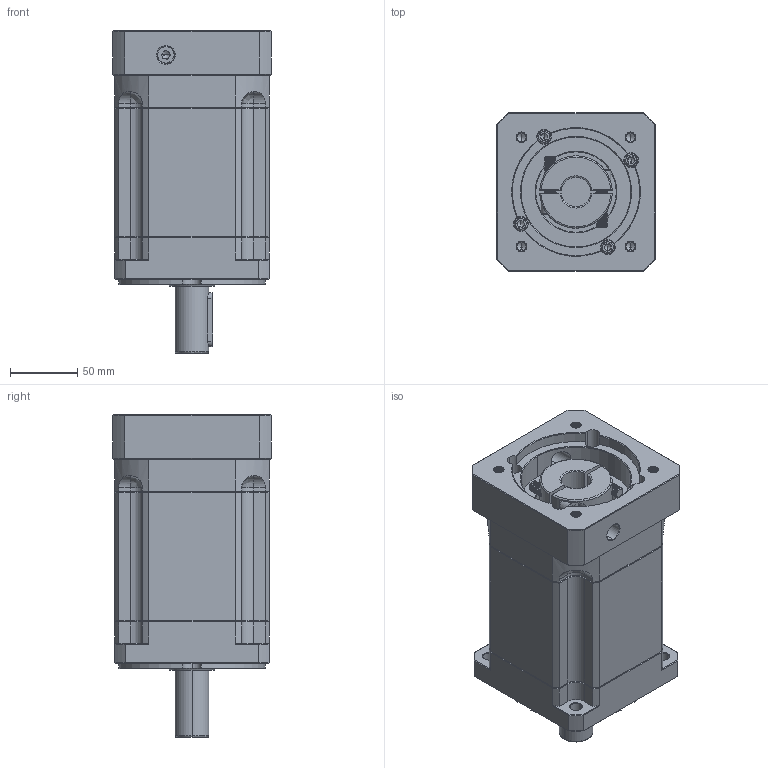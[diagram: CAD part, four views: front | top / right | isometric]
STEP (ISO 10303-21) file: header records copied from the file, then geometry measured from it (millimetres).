
FILE_DESCRIPTION (( 'STEP AP214' ), '1' );
FILE_NAME ('ZB115A-D25-L3-P2-22-95-115-M8.step', '2023-08-26T06:25:41', ( '' ), ( '' ), 'SwSTEP 2.0', 'SolidWorks 2016', '' );
FILE_SCHEMA (( 'AUTOMOTIVE_DESIGN' ));
Length unit declared in the file: millimetre
Products named in the file (1): ZB115A-D25-L3-P2-22-95-115-M8
Bounding box: 118 x 118 x 240.5 mm (x, y, z)
Volume: 2121457.2 mm3; surface area: 187155.8 mm2
Topology: 6 solids, 6 shells, 2406 faces, 6325 edges, 4015 vertices
Faces by surface type: plane 1144, cylinder 448, bspline 423, cone 371, torus 20
Entity records: 129660 total; most frequent: CARTESIAN_POINT 47456, ORIENTED_EDGE 12582, DIRECTION 9968, EDGE_CURVE 6291, VERTEX_POINT 4015, VECTOR 4000, LINE 4000, AXIS2_PLACEMENT_3D 2984
